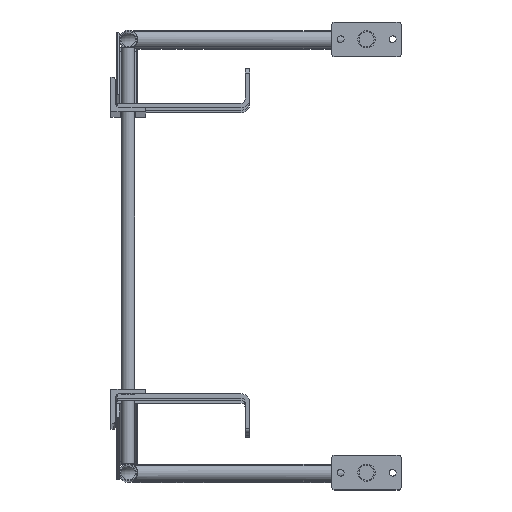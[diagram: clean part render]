
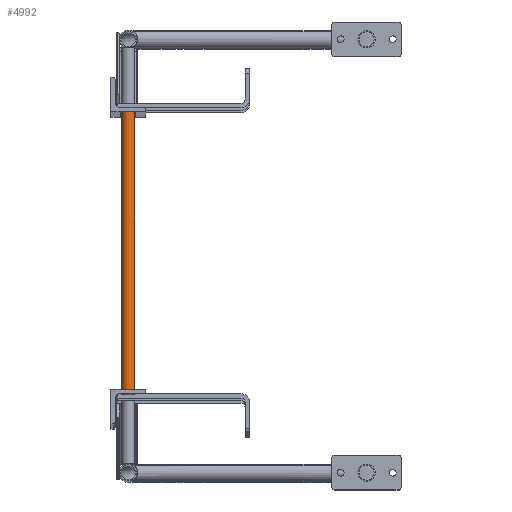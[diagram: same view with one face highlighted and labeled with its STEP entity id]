
A CAD part, top view. The second image highlights one B-rep face of the part: STEP entity #4992.
In plain terms, the highlighted cylindrical face has radius 9.525 mm (diameter 19.05 mm), a full revolution.
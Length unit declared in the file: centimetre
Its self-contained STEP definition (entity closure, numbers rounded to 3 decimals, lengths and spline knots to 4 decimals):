
#874=FACE_BOUND('',#1375,.T.);
#1068=FACE_OUTER_BOUND('',#1374,.T.);
#1374=EDGE_LOOP('',(#3322));
#1375=EDGE_LOOP('',(#3323));
#1846=CIRCLE('',#5340,0.9525);
#1847=CIRCLE('',#5341,0.9525);
#2154=VERTEX_POINT('',#7715);
#2155=VERTEX_POINT('',#7717);
#2636=EDGE_CURVE('',#2154,#2154,#1846,.T.);
#2637=EDGE_CURVE('',#2155,#2155,#1847,.T.);
#3322=ORIENTED_EDGE('',*,*,#2636,.T.);
#3323=ORIENTED_EDGE('',*,*,#2637,.F.);
#4526=CYLINDRICAL_SURFACE('',#5339,0.9525);
#4992=ADVANCED_FACE('',(#1068,#874),#4526,.T.);
#5339=AXIS2_PLACEMENT_3D('',#7714,#5997,#5998);
#5340=AXIS2_PLACEMENT_3D('',#7716,#5999,#6000);
#5341=AXIS2_PLACEMENT_3D('',#7718,#6001,#6002);
#5997=DIRECTION('center_axis',(0.,-1.,0.));
#5998=DIRECTION('ref_axis',(1.,0.,0.));
#5999=DIRECTION('center_axis',(0.,1.,0.));
#6000=DIRECTION('ref_axis',(1.,0.,0.));
#6001=DIRECTION('center_axis',(0.,1.,0.));
#6002=DIRECTION('ref_axis',(1.,0.,0.));
#7714=CARTESIAN_POINT('Origin',(2.54,0.4762,461.01));
#7715=CARTESIAN_POINT('',(1.5875,-41.4338,461.01));
#7716=CARTESIAN_POINT('Origin',(2.54,-41.4338,461.01));
#7717=CARTESIAN_POINT('',(1.5875,0.4762,461.01));
#7718=CARTESIAN_POINT('Origin',(2.54,0.4762,461.01));
